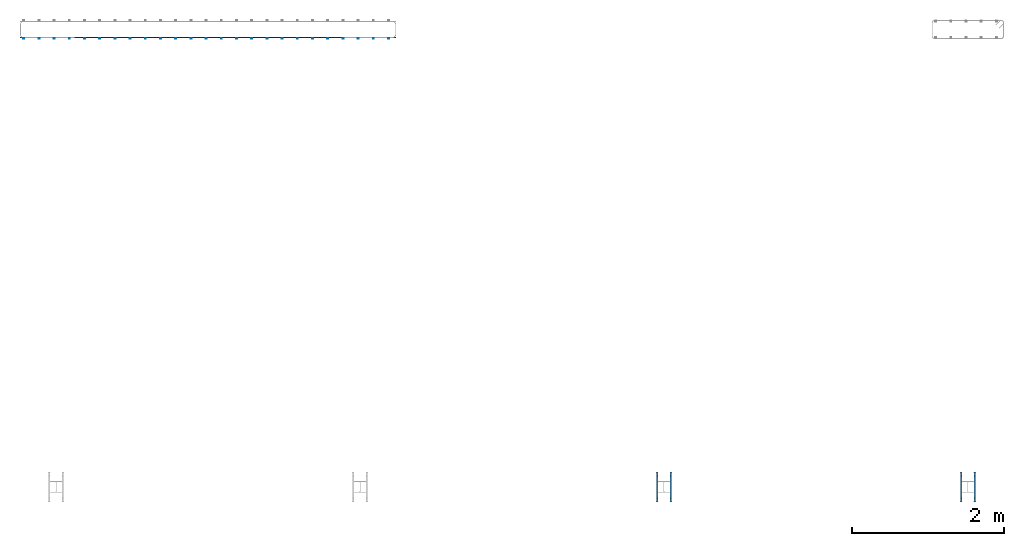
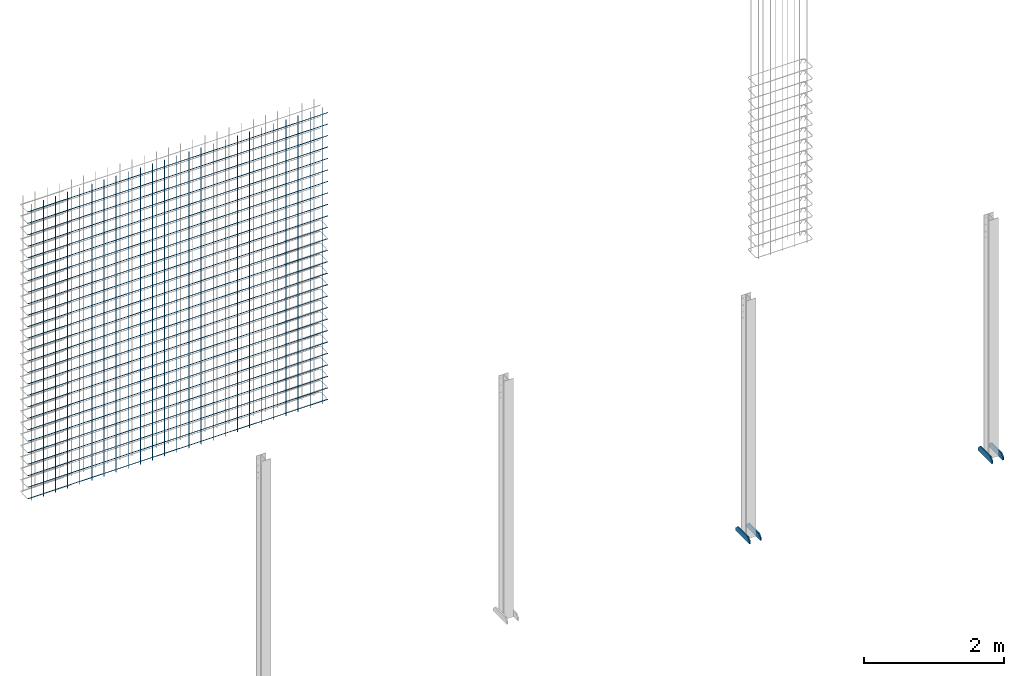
# One storey, part 2 of 4: 4 plates, 2 reinforcing bars, 8 openings.
"""IFC4X3_ADD2 building model written with IfcOpenShell, lengths in millimetres."""

from ifc_helpers import new_model, entity, si_unit, converted_unit, derived_unit, direction, frame, origin, origin_with_axes, place, context, subcontext, project, spatial, polyline, outline, extrude, material, layer, layer_set, type_object, element, save


model = new_model("IFC4X3_ADD2")

# Units and contexts
model_context = context("Model", 3, precision=0.01, world=origin(), true_north=direction((6.123233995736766e-17, 1.0)))
plan_context = context("Plan", 3, precision=0.01, world=origin(), true_north=direction((6.123233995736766e-17, 1.0)))
body_context = subcontext(model_context, "Body", "Model", "MODEL_VIEW")
ifc_project = project(units=[si_unit("LENGTHUNIT", "METRE", prefix="MILLI"), converted_unit("PLANEANGLEUNIT", "DEGREE", entity("IfcPlaneAngleMeasure", 0.017453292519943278), si_unit("PLANEANGLEUNIT", "RADIAN"), dimensions=[0, 0, 0, 0, 0, 0, 0]), si_unit("AREAUNIT", "SQUARE_METRE"), si_unit("VOLUMEUNIT", "CUBIC_METRE"), derived_unit("THERMALTRANSMITTANCEUNIT", [(si_unit("MASSUNIT", "GRAM", prefix="KILO"), 1), (si_unit("THERMODYNAMICTEMPERATUREUNIT", "KELVIN"), -1), (si_unit("TIMEUNIT", "SECOND"), -3)]), derived_unit("USERDEFINED", [(si_unit("MASSUNIT", "GRAM", prefix="KILO"), 1), (si_unit("THERMODYNAMICTEMPERATUREUNIT", "KELVIN"), -1), (si_unit("TIMEUNIT", "SECOND"), -2)]), derived_unit("THERMALRESISTANCEUNIT", [(si_unit("MASSUNIT", "GRAM", prefix="KILO"), -1), (si_unit("TIMEUNIT", "SECOND"), 3), (si_unit("THERMODYNAMICTEMPERATUREUNIT", "KELVIN"), 1)]), si_unit("MASSUNIT", "GRAM", prefix="KILO"), derived_unit("MOMENTOFINERTIAUNIT", [(si_unit("LENGTHUNIT", "METRE"), 4)]), derived_unit("LINEARFORCEUNIT", [(si_unit("MASSUNIT", "GRAM", prefix="KILO"), 1), (si_unit("TIMEUNIT", "SECOND"), -2)]), derived_unit("WARPINGCONSTANTUNIT", [(si_unit("LENGTHUNIT", "METRE"), 6)]), si_unit("PRESSUREUNIT", "PASCAL"), derived_unit("MASSDENSITYUNIT", [(si_unit("MASSUNIT", "GRAM", prefix="KILO"), 1), (si_unit("LENGTHUNIT", "METRE"), -3)]), derived_unit("MODULUSOFELASTICITYUNIT", [(si_unit("MASSUNIT", "GRAM", prefix="KILO"), 1), (si_unit("TIMEUNIT", "SECOND"), -2), (si_unit("LENGTHUNIT", "METRE"), -1)]), derived_unit("THERMALEXPANSIONCOEFFICIENTUNIT", [(si_unit("THERMODYNAMICTEMPERATUREUNIT", "KELVIN"), -1)]), derived_unit("VAPORPERMEABILITYUNIT", [(si_unit("LENGTHUNIT", "METRE"), -1), (si_unit("TIMEUNIT", "SECOND"), 1)]), derived_unit("USERDEFINED", [(si_unit("MASSUNIT", "GRAM", prefix="KILO"), 1), (si_unit("TIMEUNIT", "SECOND"), -3), (si_unit("LENGTHUNIT", "METRE"), 3), (si_unit("ELECTRICCURRENTUNIT", "AMPERE"), -2)]), derived_unit("SPECIFICHEATCAPACITYUNIT", [(si_unit("THERMODYNAMICTEMPERATUREUNIT", "KELVIN"), -1), (si_unit("TIMEUNIT", "SECOND"), -2), (si_unit("LENGTHUNIT", "METRE"), 2)]), derived_unit("THERMALCONDUCTANCEUNIT", [(si_unit("MASSUNIT", "GRAM", prefix="KILO"), 1), (si_unit("THERMODYNAMICTEMPERATUREUNIT", "KELVIN"), -1), (si_unit("TIMEUNIT", "SECOND"), -3), (si_unit("LENGTHUNIT", "METRE"), 1)])], contexts=[model_context, plan_context])

# Site, building, storey
site_placement = place(None, origin())
site = spatial("IfcSite", under=ifc_project, at=site_placement, Name="Default", CompositionType="ELEMENT")
building_placement = place(site_placement, origin())
building = spatial("IfcBuilding", under=site, at=building_placement, Name="Complex structure", CompositionType="ELEMENT")
storey_placement = place(building_placement, frame((0.0, 0.0, -200.0)))
storey = spatial("IfcBuildingStorey", under=building, at=storey_placement, Name="Level -01", CompositionType="ELEMENT", Elevation=-200.0)

# Plate, openings
ifc_material_1 = material(Name="Metal Stud Layer")
ifc_layer = layer(ifc_material_1, 20.0)
ifc_layer_set = layer_set([ifc_layer], Name="Metal Stud Layer")
plate_1_placement = place(storey_placement, frame((-1225.221550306, -1086.866703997, 25.400000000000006), z_axis=(-1.0, 0.0, 0.0), x_axis=(0.0, -1.0, 0.0)))
plate_1 = element("IfcPlate", 1, at=plate_1_placement, inside=storey, material=ifc_layer_set, Name="Stiffener#5", ObjectType="Stiffener#5", context=model_context, shape_type="SweptSolid", body=[
    extrude(outline(polyline([(0.0, 0.0), (392.0, 0.0), (392.0, 100.0), (0.0, 100.0), (0.0, 0.0)])), origin_with_axes(), (0.0, 0.0, 1.0), 20.0),
])
opening_1_placement = place(plate_1_placement, frame((0.0, 0.0, -0.01), z_axis=(0.0, 0.0, 1.0), x_axis=(1.0, 0.0, 0.0)))
element("IfcOpeningElement", 2, at=opening_1_placement, cuts=plate_1, ObjectType="Opening", context=model_context, shape_type="SweptSolid", body=[
    extrude(outline(polyline([(392.0, 100.0), (342.0, 100.0), (392.0, 50.0), (392.0, 100.0)])), origin(), (0.0, 0.0, 1.0), 20.02),
])
opening_2_placement = place(plate_1_placement, frame((0.0, 0.0, -0.01), z_axis=(0.0, 0.0, 1.0), x_axis=(1.0, 0.0, 0.0)))
element("IfcOpeningElement", 3, at=opening_2_placement, cuts=plate_1, ObjectType="Opening", context=model_context, shape_type="SweptSolid", body=[
    extrude(outline(polyline([(0.0, 100.0), (0.0, 50.0), (50.0, 100.0), (0.0, 100.0)])), origin(), (0.0, 0.0, 1.0), 20.02),
])

plate_2_placement = place(storey_placement, frame((-1065.221550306, -1086.866703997, 125.4), z_axis=(1.0, 0.0, 0.0), x_axis=(0.0, -1.0, 0.0)))
plate_2 = element("IfcPlate", 4, at=plate_2_placement, inside=storey, material=ifc_layer_set, Name="Stiffener#6", ObjectType="Stiffener#6", context=model_context, shape_type="SweptSolid", body=[
    extrude(outline(polyline([(0.0, 0.0), (392.0, 0.0), (392.0, 100.0), (0.0, 100.0), (0.0, 0.0)])), origin_with_axes(), (0.0, 0.0, 1.0), 20.0),
])
opening_3_placement = place(plate_2_placement, frame((0.0, 0.0, -0.01), z_axis=(0.0, 0.0, 1.0), x_axis=(1.0, 0.0, 0.0)))
element("IfcOpeningElement", 5, at=opening_3_placement, cuts=plate_2, ObjectType="Opening", context=model_context, shape_type="SweptSolid", body=[
    extrude(outline(polyline([(392.0, 0.0), (392.0, 50.0), (342.0, 0.0), (392.0, 0.0)])), origin(), (0.0, 0.0, 1.0), 20.02),
])
opening_4_placement = place(plate_2_placement, frame((0.0, 0.0, -0.01), z_axis=(0.0, 0.0, 1.0), x_axis=(1.0, 0.0, 0.0)))
element("IfcOpeningElement", 6, at=opening_4_placement, cuts=plate_2, ObjectType="Opening", context=model_context, shape_type="SweptSolid", body=[
    extrude(outline(polyline([(0.0, 0.0), (50.0, 0.0), (0.0, 50.0), (0.0, 0.0)])), origin(), (0.0, 0.0, 1.0), 20.02),
])

plate_3_placement = place(storey_placement, frame((-5225.221550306, -1086.866703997, 25.400000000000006), z_axis=(-1.0, 0.0, 0.0), x_axis=(0.0, -1.0, 0.0)))
plate_3 = element("IfcPlate", 7, at=plate_3_placement, inside=storey, material=ifc_layer_set, Name="Stiffener#5", ObjectType="Stiffener#5", context=model_context, shape_type="SweptSolid", body=[
    extrude(outline(polyline([(0.0, 0.0), (392.0, 0.0), (392.0, 100.0), (0.0, 100.0), (0.0, 0.0)])), origin_with_axes(), (0.0, 0.0, 1.0), 20.0),
])
opening_5_placement = place(plate_3_placement, frame((0.0, 0.0, -0.01), z_axis=(0.0, 0.0, 1.0), x_axis=(1.0, 0.0, 0.0)))
element("IfcOpeningElement", 8, at=opening_5_placement, cuts=plate_3, ObjectType="Opening", context=model_context, shape_type="SweptSolid", body=[
    extrude(outline(polyline([(392.0, 100.0), (342.0, 100.0), (392.0, 50.0), (392.0, 100.0)])), origin(), (0.0, 0.0, 1.0), 20.02),
])
opening_6_placement = place(plate_3_placement, frame((0.0, 0.0, -0.01), z_axis=(0.0, 0.0, 1.0), x_axis=(1.0, 0.0, 0.0)))
element("IfcOpeningElement", 9, at=opening_6_placement, cuts=plate_3, ObjectType="Opening", context=model_context, shape_type="SweptSolid", body=[
    extrude(outline(polyline([(0.0, 100.0), (0.0, 50.0), (50.0, 100.0), (0.0, 100.0)])), origin(), (0.0, 0.0, 1.0), 20.02),
])

plate_4_placement = place(storey_placement, frame((-5065.221550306, -1086.866703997, 125.4), z_axis=(1.0, 0.0, 0.0), x_axis=(0.0, -1.0, 0.0)))
plate_4 = element("IfcPlate", 10, at=plate_4_placement, inside=storey, material=ifc_layer_set, Name="Stiffener#6", ObjectType="Stiffener#6", context=model_context, shape_type="SweptSolid", body=[
    extrude(outline(polyline([(0.0, 0.0), (392.0, 0.0), (392.0, 100.0), (0.0, 100.0), (0.0, 0.0)])), origin_with_axes(), (0.0, 0.0, 1.0), 20.0),
])
opening_7_placement = place(plate_4_placement, frame((0.0, 0.0, -0.01), z_axis=(0.0, 0.0, 1.0), x_axis=(1.0, 0.0, 0.0)))
element("IfcOpeningElement", 11, at=opening_7_placement, cuts=plate_4, ObjectType="Opening", context=model_context, shape_type="SweptSolid", body=[
    extrude(outline(polyline([(392.0, 0.0), (392.0, 50.0), (342.0, 0.0), (392.0, 0.0)])), origin(), (0.0, 0.0, 1.0), 20.02),
])
opening_8_placement = place(plate_4_placement, frame((0.0, 0.0, -0.01), z_axis=(0.0, 0.0, 1.0), x_axis=(1.0, 0.0, 0.0)))
element("IfcOpeningElement", 12, at=opening_8_placement, cuts=plate_4, ObjectType="Opening", context=model_context, shape_type="SweptSolid", body=[
    extrude(outline(polyline([(0.0, 0.0), (50.0, 0.0), (0.0, 50.0), (0.0, 0.0)])), origin(), (0.0, 0.0, 1.0), 20.02),
])

# Reinforcing bars
ifc_material_2 = material(Name="Steel Rebar - B500A, B or C", Category="Unassigned")
reinforcing_bar_type = type_object("IfcReinforcingBarType", Name="Rebar Bar:12mm", PredefinedType="NOTDEFINED")
reinforcing_bar_1_placement = place(storey_placement, origin())
element("IfcReinforcingBar", 13, at=reinforcing_bar_1_placement, inside=storey, type_object=reinforcing_bar_type, material=ifc_material_2, Name="Rebar Bar:12mm : Shape 00", ObjectType="Rebar Bar:12mm", context=body_context, shape_type="AdvancedSweptSolid", body=[
    entity("IfcSweptDiskSolid", entity("IfcCompositeCurve", [entity("IfcCompositeCurveSegment", "CONTINUOUS", True, entity("IfcPolyline", [entity("IfcCartesianPoint", [-13568.221550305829, 4618.133296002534, 9.0]), entity("IfcCartesianPoint", [-13568.221550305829, 4618.133296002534, 5175.0])]))], False), 6.0, None, 0.0, 1.0),
    entity("IfcSweptDiskSolid", entity("IfcCompositeCurve", [entity("IfcCompositeCurveSegment", "CONTINUOUS", True, entity("IfcPolyline", [entity("IfcCartesianPoint", [-13368.221550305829, 4618.133296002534, 9.0]), entity("IfcCartesianPoint", [-13368.221550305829, 4618.133296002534, 5175.0])]))], False), 6.0, None, 0.0, 1.0),
    entity("IfcSweptDiskSolid", entity("IfcCompositeCurve", [entity("IfcCompositeCurveSegment", "CONTINUOUS", True, entity("IfcPolyline", [entity("IfcCartesianPoint", [-13168.221550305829, 4618.133296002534, 9.0]), entity("IfcCartesianPoint", [-13168.221550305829, 4618.133296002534, 5175.0])]))], False), 6.0, None, 0.0, 1.0),
    entity("IfcSweptDiskSolid", entity("IfcCompositeCurve", [entity("IfcCompositeCurveSegment", "CONTINUOUS", True, entity("IfcPolyline", [entity("IfcCartesianPoint", [-12968.221550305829, 4618.133296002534, 9.0]), entity("IfcCartesianPoint", [-12968.221550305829, 4618.133296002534, 5175.0])]))], False), 6.0, None, 0.0, 1.0),
    entity("IfcSweptDiskSolid", entity("IfcCompositeCurve", [entity("IfcCompositeCurveSegment", "CONTINUOUS", True, entity("IfcPolyline", [entity("IfcCartesianPoint", [-12768.221550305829, 4618.133296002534, 9.0]), entity("IfcCartesianPoint", [-12768.221550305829, 4618.133296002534, 5175.0])]))], False), 6.0, None, 0.0, 1.0),
    entity("IfcSweptDiskSolid", entity("IfcCompositeCurve", [entity("IfcCompositeCurveSegment", "CONTINUOUS", True, entity("IfcPolyline", [entity("IfcCartesianPoint", [-12568.221550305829, 4618.133296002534, 9.0]), entity("IfcCartesianPoint", [-12568.221550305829, 4618.133296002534, 5175.0])]))], False), 6.0, None, 0.0, 1.0),
    entity("IfcSweptDiskSolid", entity("IfcCompositeCurve", [entity("IfcCompositeCurveSegment", "CONTINUOUS", True, entity("IfcPolyline", [entity("IfcCartesianPoint", [-12368.221550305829, 4618.133296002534, 9.0]), entity("IfcCartesianPoint", [-12368.221550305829, 4618.133296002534, 5175.0])]))], False), 6.0, None, 0.0, 1.0),
    entity("IfcSweptDiskSolid", entity("IfcCompositeCurve", [entity("IfcCompositeCurveSegment", "CONTINUOUS", True, entity("IfcPolyline", [entity("IfcCartesianPoint", [-12168.221550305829, 4618.133296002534, 9.0]), entity("IfcCartesianPoint", [-12168.221550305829, 4618.133296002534, 5175.0])]))], False), 6.0, None, 0.0, 1.0),
    entity("IfcSweptDiskSolid", entity("IfcCompositeCurve", [entity("IfcCompositeCurveSegment", "CONTINUOUS", True, entity("IfcPolyline", [entity("IfcCartesianPoint", [-11968.221550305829, 4618.133296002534, 9.0]), entity("IfcCartesianPoint", [-11968.221550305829, 4618.133296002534, 5175.0])]))], False), 6.0, None, 0.0, 1.0),
    entity("IfcSweptDiskSolid", entity("IfcCompositeCurve", [entity("IfcCompositeCurveSegment", "CONTINUOUS", True, entity("IfcPolyline", [entity("IfcCartesianPoint", [-11768.221550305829, 4618.133296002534, 9.0]), entity("IfcCartesianPoint", [-11768.221550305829, 4618.133296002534, 5175.0])]))], False), 6.0, None, 0.0, 1.0),
    entity("IfcSweptDiskSolid", entity("IfcCompositeCurve", [entity("IfcCompositeCurveSegment", "CONTINUOUS", True, entity("IfcPolyline", [entity("IfcCartesianPoint", [-11568.221550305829, 4618.133296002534, 9.0]), entity("IfcCartesianPoint", [-11568.221550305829, 4618.133296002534, 5175.0])]))], False), 6.0, None, 0.0, 1.0),
    entity("IfcSweptDiskSolid", entity("IfcCompositeCurve", [entity("IfcCompositeCurveSegment", "CONTINUOUS", True, entity("IfcPolyline", [entity("IfcCartesianPoint", [-11368.221550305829, 4618.133296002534, 9.0]), entity("IfcCartesianPoint", [-11368.221550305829, 4618.133296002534, 5175.0])]))], False), 6.0, None, 0.0, 1.0),
    entity("IfcSweptDiskSolid", entity("IfcCompositeCurve", [entity("IfcCompositeCurveSegment", "CONTINUOUS", True, entity("IfcPolyline", [entity("IfcCartesianPoint", [-11168.221550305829, 4618.133296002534, 9.0]), entity("IfcCartesianPoint", [-11168.221550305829, 4618.133296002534, 5175.0])]))], False), 6.0, None, 0.0, 1.0),
    entity("IfcSweptDiskSolid", entity("IfcCompositeCurve", [entity("IfcCompositeCurveSegment", "CONTINUOUS", True, entity("IfcPolyline", [entity("IfcCartesianPoint", [-10968.221550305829, 4618.133296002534, 9.0]), entity("IfcCartesianPoint", [-10968.221550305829, 4618.133296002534, 5175.0])]))], False), 6.0, None, 0.0, 1.0),
    entity("IfcSweptDiskSolid", entity("IfcCompositeCurve", [entity("IfcCompositeCurveSegment", "CONTINUOUS", True, entity("IfcPolyline", [entity("IfcCartesianPoint", [-10768.221550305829, 4618.133296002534, 9.0]), entity("IfcCartesianPoint", [-10768.221550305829, 4618.133296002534, 5175.0])]))], False), 6.0, None, 0.0, 1.0),
    entity("IfcSweptDiskSolid", entity("IfcCompositeCurve", [entity("IfcCompositeCurveSegment", "CONTINUOUS", True, entity("IfcPolyline", [entity("IfcCartesianPoint", [-10568.221550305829, 4618.133296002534, 9.0]), entity("IfcCartesianPoint", [-10568.221550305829, 4618.133296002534, 5175.0])]))], False), 6.0, None, 0.0, 1.0),
    entity("IfcSweptDiskSolid", entity("IfcCompositeCurve", [entity("IfcCompositeCurveSegment", "CONTINUOUS", True, entity("IfcPolyline", [entity("IfcCartesianPoint", [-10368.221550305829, 4618.133296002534, 9.0]), entity("IfcCartesianPoint", [-10368.221550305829, 4618.133296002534, 5175.0])]))], False), 6.0, None, 0.0, 1.0),
    entity("IfcSweptDiskSolid", entity("IfcCompositeCurve", [entity("IfcCompositeCurveSegment", "CONTINUOUS", True, entity("IfcPolyline", [entity("IfcCartesianPoint", [-10168.221550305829, 4618.133296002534, 9.0]), entity("IfcCartesianPoint", [-10168.221550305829, 4618.133296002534, 5175.0])]))], False), 6.0, None, 0.0, 1.0),
    entity("IfcSweptDiskSolid", entity("IfcCompositeCurve", [entity("IfcCompositeCurveSegment", "CONTINUOUS", True, entity("IfcPolyline", [entity("IfcCartesianPoint", [-9968.221550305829, 4618.133296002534, 9.0]), entity("IfcCartesianPoint", [-9968.221550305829, 4618.133296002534, 5175.0])]))], False), 6.0, None, 0.0, 1.0),
    entity("IfcSweptDiskSolid", entity("IfcCompositeCurve", [entity("IfcCompositeCurveSegment", "CONTINUOUS", True, entity("IfcPolyline", [entity("IfcCartesianPoint", [-9768.221550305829, 4618.133296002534, 9.0]), entity("IfcCartesianPoint", [-9768.221550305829, 4618.133296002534, 5175.0])]))], False), 6.0, None, 0.0, 1.0),
    entity("IfcSweptDiskSolid", entity("IfcCompositeCurve", [entity("IfcCompositeCurveSegment", "CONTINUOUS", True, entity("IfcPolyline", [entity("IfcCartesianPoint", [-9568.221550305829, 4618.133296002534, 9.0]), entity("IfcCartesianPoint", [-9568.221550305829, 4618.133296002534, 5175.0])]))], False), 6.0, None, 0.0, 1.0),
    entity("IfcSweptDiskSolid", entity("IfcCompositeCurve", [entity("IfcCompositeCurveSegment", "CONTINUOUS", True, entity("IfcPolyline", [entity("IfcCartesianPoint", [-9368.221550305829, 4618.133296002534, 9.0]), entity("IfcCartesianPoint", [-9368.221550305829, 4618.133296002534, 5175.0])]))], False), 6.0, None, 0.0, 1.0),
    entity("IfcSweptDiskSolid", entity("IfcCompositeCurve", [entity("IfcCompositeCurveSegment", "CONTINUOUS", True, entity("IfcPolyline", [entity("IfcCartesianPoint", [-9168.221550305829, 4618.133296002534, 9.0]), entity("IfcCartesianPoint", [-9168.221550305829, 4618.133296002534, 5175.0])]))], False), 6.0, None, 0.0, 1.0),
    entity("IfcSweptDiskSolid", entity("IfcCompositeCurve", [entity("IfcCompositeCurveSegment", "CONTINUOUS", True, entity("IfcPolyline", [entity("IfcCartesianPoint", [-8968.221550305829, 4618.133296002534, 9.0]), entity("IfcCartesianPoint", [-8968.221550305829, 4618.133296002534, 5175.0])]))], False), 6.0, None, 0.0, 1.0),
    entity("IfcSweptDiskSolid", entity("IfcCompositeCurve", [entity("IfcCompositeCurveSegment", "CONTINUOUS", True, entity("IfcPolyline", [entity("IfcCartesianPoint", [-8768.221550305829, 4618.133296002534, 9.0]), entity("IfcCartesianPoint", [-8768.221550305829, 4618.133296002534, 5175.0])]))], False), 6.0, None, 0.0, 1.0),
])
reinforcing_bar_2_placement = place(storey_placement, origin())
element("IfcReinforcingBar", 14, at=reinforcing_bar_2_placement, inside=storey, type_object=reinforcing_bar_type, material=ifc_material_2, Name="Rebar Bar:12mm : Shape 00", ObjectType="Rebar Bar:12mm", context=body_context, shape_type="AdvancedSweptSolid", body=[
    entity("IfcSweptDiskSolid", entity("IfcCompositeCurve", [entity("IfcCompositeCurveSegment", "CONTINUOUS", True, entity("IfcPolyline", [entity("IfcCartesianPoint", [-8670.221550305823, 4630.133296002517, 47.0]), entity("IfcCartesianPoint", [-13620.221550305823, 4630.133296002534, 47.0])]))], False), 6.0, None, 0.0, 1.0),
    entity("IfcSweptDiskSolid", entity("IfcCompositeCurve", [entity("IfcCompositeCurveSegment", "CONTINUOUS", True, entity("IfcPolyline", [entity("IfcCartesianPoint", [-8670.221550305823, 4630.133296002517, 247.0]), entity("IfcCartesianPoint", [-13620.221550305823, 4630.133296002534, 247.0])]))], False), 6.0, None, 0.0, 1.0),
    entity("IfcSweptDiskSolid", entity("IfcCompositeCurve", [entity("IfcCompositeCurveSegment", "CONTINUOUS", True, entity("IfcPolyline", [entity("IfcCartesianPoint", [-8670.221550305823, 4630.133296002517, 447.0]), entity("IfcCartesianPoint", [-13620.221550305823, 4630.133296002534, 447.0])]))], False), 6.0, None, 0.0, 1.0),
    entity("IfcSweptDiskSolid", entity("IfcCompositeCurve", [entity("IfcCompositeCurveSegment", "CONTINUOUS", True, entity("IfcPolyline", [entity("IfcCartesianPoint", [-8670.221550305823, 4630.133296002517, 647.0]), entity("IfcCartesianPoint", [-13620.221550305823, 4630.133296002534, 647.0])]))], False), 6.0, None, 0.0, 1.0),
    entity("IfcSweptDiskSolid", entity("IfcCompositeCurve", [entity("IfcCompositeCurveSegment", "CONTINUOUS", True, entity("IfcPolyline", [entity("IfcCartesianPoint", [-8670.221550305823, 4630.133296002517, 847.0]), entity("IfcCartesianPoint", [-13620.221550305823, 4630.133296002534, 847.0])]))], False), 6.0, None, 0.0, 1.0),
    entity("IfcSweptDiskSolid", entity("IfcCompositeCurve", [entity("IfcCompositeCurveSegment", "CONTINUOUS", True, entity("IfcPolyline", [entity("IfcCartesianPoint", [-8670.221550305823, 4630.133296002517, 1047.0]), entity("IfcCartesianPoint", [-13620.221550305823, 4630.133296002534, 1047.0])]))], False), 6.0, None, 0.0, 1.0),
    entity("IfcSweptDiskSolid", entity("IfcCompositeCurve", [entity("IfcCompositeCurveSegment", "CONTINUOUS", True, entity("IfcPolyline", [entity("IfcCartesianPoint", [-8670.221550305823, 4630.133296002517, 1247.0]), entity("IfcCartesianPoint", [-13620.221550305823, 4630.133296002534, 1247.0])]))], False), 6.0, None, 0.0, 1.0),
    entity("IfcSweptDiskSolid", entity("IfcCompositeCurve", [entity("IfcCompositeCurveSegment", "CONTINUOUS", True, entity("IfcPolyline", [entity("IfcCartesianPoint", [-8670.221550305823, 4630.133296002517, 1447.0]), entity("IfcCartesianPoint", [-13620.221550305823, 4630.133296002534, 1447.0])]))], False), 6.0, None, 0.0, 1.0),
    entity("IfcSweptDiskSolid", entity("IfcCompositeCurve", [entity("IfcCompositeCurveSegment", "CONTINUOUS", True, entity("IfcPolyline", [entity("IfcCartesianPoint", [-8670.221550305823, 4630.133296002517, 1647.0]), entity("IfcCartesianPoint", [-13620.221550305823, 4630.133296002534, 1647.0])]))], False), 6.0, None, 0.0, 1.0),
    entity("IfcSweptDiskSolid", entity("IfcCompositeCurve", [entity("IfcCompositeCurveSegment", "CONTINUOUS", True, entity("IfcPolyline", [entity("IfcCartesianPoint", [-8670.221550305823, 4630.133296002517, 1847.0]), entity("IfcCartesianPoint", [-13620.221550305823, 4630.133296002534, 1847.0])]))], False), 6.0, None, 0.0, 1.0),
    entity("IfcSweptDiskSolid", entity("IfcCompositeCurve", [entity("IfcCompositeCurveSegment", "CONTINUOUS", True, entity("IfcPolyline", [entity("IfcCartesianPoint", [-8670.221550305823, 4630.133296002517, 2047.0]), entity("IfcCartesianPoint", [-13620.221550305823, 4630.133296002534, 2047.0])]))], False), 6.0, None, 0.0, 1.0),
    entity("IfcSweptDiskSolid", entity("IfcCompositeCurve", [entity("IfcCompositeCurveSegment", "CONTINUOUS", True, entity("IfcPolyline", [entity("IfcCartesianPoint", [-8670.221550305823, 4630.133296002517, 2247.0]), entity("IfcCartesianPoint", [-13620.221550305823, 4630.133296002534, 2247.0])]))], False), 6.0, None, 0.0, 1.0),
    entity("IfcSweptDiskSolid", entity("IfcCompositeCurve", [entity("IfcCompositeCurveSegment", "CONTINUOUS", True, entity("IfcPolyline", [entity("IfcCartesianPoint", [-8670.221550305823, 4630.133296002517, 2447.0]), entity("IfcCartesianPoint", [-13620.221550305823, 4630.133296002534, 2447.0])]))], False), 6.0, None, 0.0, 1.0),
    entity("IfcSweptDiskSolid", entity("IfcCompositeCurve", [entity("IfcCompositeCurveSegment", "CONTINUOUS", True, entity("IfcPolyline", [entity("IfcCartesianPoint", [-8670.221550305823, 4630.133296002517, 2647.0]), entity("IfcCartesianPoint", [-13620.221550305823, 4630.133296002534, 2647.0])]))], False), 6.0, None, 0.0, 1.0),
    entity("IfcSweptDiskSolid", entity("IfcCompositeCurve", [entity("IfcCompositeCurveSegment", "CONTINUOUS", True, entity("IfcPolyline", [entity("IfcCartesianPoint", [-8670.221550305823, 4630.133296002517, 2847.0]), entity("IfcCartesianPoint", [-13620.221550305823, 4630.133296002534, 2847.0])]))], False), 6.0, None, 0.0, 1.0),
    entity("IfcSweptDiskSolid", entity("IfcCompositeCurve", [entity("IfcCompositeCurveSegment", "CONTINUOUS", True, entity("IfcPolyline", [entity("IfcCartesianPoint", [-8670.221550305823, 4630.133296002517, 3047.0]), entity("IfcCartesianPoint", [-13620.221550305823, 4630.133296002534, 3047.0])]))], False), 6.0, None, 0.0, 1.0),
    entity("IfcSweptDiskSolid", entity("IfcCompositeCurve", [entity("IfcCompositeCurveSegment", "CONTINUOUS", True, entity("IfcPolyline", [entity("IfcCartesianPoint", [-8670.221550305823, 4630.133296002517, 3247.0]), entity("IfcCartesianPoint", [-13620.221550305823, 4630.133296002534, 3247.0])]))], False), 6.0, None, 0.0, 1.0),
    entity("IfcSweptDiskSolid", entity("IfcCompositeCurve", [entity("IfcCompositeCurveSegment", "CONTINUOUS", True, entity("IfcPolyline", [entity("IfcCartesianPoint", [-8670.221550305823, 4630.133296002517, 3447.0]), entity("IfcCartesianPoint", [-13620.221550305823, 4630.133296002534, 3447.0])]))], False), 6.0, None, 0.0, 1.0),
    entity("IfcSweptDiskSolid", entity("IfcCompositeCurve", [entity("IfcCompositeCurveSegment", "CONTINUOUS", True, entity("IfcPolyline", [entity("IfcCartesianPoint", [-8670.221550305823, 4630.133296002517, 3647.0]), entity("IfcCartesianPoint", [-13620.221550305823, 4630.133296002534, 3647.0])]))], False), 6.0, None, 0.0, 1.0),
    entity("IfcSweptDiskSolid", entity("IfcCompositeCurve", [entity("IfcCompositeCurveSegment", "CONTINUOUS", True, entity("IfcPolyline", [entity("IfcCartesianPoint", [-8670.221550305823, 4630.133296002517, 3847.0]), entity("IfcCartesianPoint", [-13620.221550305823, 4630.133296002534, 3847.0])]))], False), 6.0, None, 0.0, 1.0),
    entity("IfcSweptDiskSolid", entity("IfcCompositeCurve", [entity("IfcCompositeCurveSegment", "CONTINUOUS", True, entity("IfcPolyline", [entity("IfcCartesianPoint", [-8670.221550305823, 4630.133296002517, 4047.0]), entity("IfcCartesianPoint", [-13620.221550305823, 4630.133296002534, 4047.0])]))], False), 6.0, None, 0.0, 1.0),
    entity("IfcSweptDiskSolid", entity("IfcCompositeCurve", [entity("IfcCompositeCurveSegment", "CONTINUOUS", True, entity("IfcPolyline", [entity("IfcCartesianPoint", [-8670.221550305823, 4630.133296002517, 4247.0]), entity("IfcCartesianPoint", [-13620.221550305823, 4630.133296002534, 4247.0])]))], False), 6.0, None, 0.0, 1.0),
    entity("IfcSweptDiskSolid", entity("IfcCompositeCurve", [entity("IfcCompositeCurveSegment", "CONTINUOUS", True, entity("IfcPolyline", [entity("IfcCartesianPoint", [-8670.221550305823, 4630.133296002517, 4447.0]), entity("IfcCartesianPoint", [-13620.221550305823, 4630.133296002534, 4447.0])]))], False), 6.0, None, 0.0, 1.0),
    entity("IfcSweptDiskSolid", entity("IfcCompositeCurve", [entity("IfcCompositeCurveSegment", "CONTINUOUS", True, entity("IfcPolyline", [entity("IfcCartesianPoint", [-8670.221550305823, 4630.133296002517, 4647.0]), entity("IfcCartesianPoint", [-13620.221550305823, 4630.133296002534, 4647.0])]))], False), 6.0, None, 0.0, 1.0),
    entity("IfcSweptDiskSolid", entity("IfcCompositeCurve", [entity("IfcCompositeCurveSegment", "CONTINUOUS", True, entity("IfcPolyline", [entity("IfcCartesianPoint", [-8670.221550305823, 4630.133296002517, 4847.0]), entity("IfcCartesianPoint", [-13620.221550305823, 4630.133296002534, 4847.0])]))], False), 6.0, None, 0.0, 1.0),
    entity("IfcSweptDiskSolid", entity("IfcCompositeCurve", [entity("IfcCompositeCurveSegment", "CONTINUOUS", True, entity("IfcPolyline", [entity("IfcCartesianPoint", [-8670.221550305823, 4630.133296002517, 5047.0]), entity("IfcCartesianPoint", [-13620.221550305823, 4630.133296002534, 5047.0])]))], False), 6.0, None, 0.0, 1.0),
])

save(model, "model.ifc")
